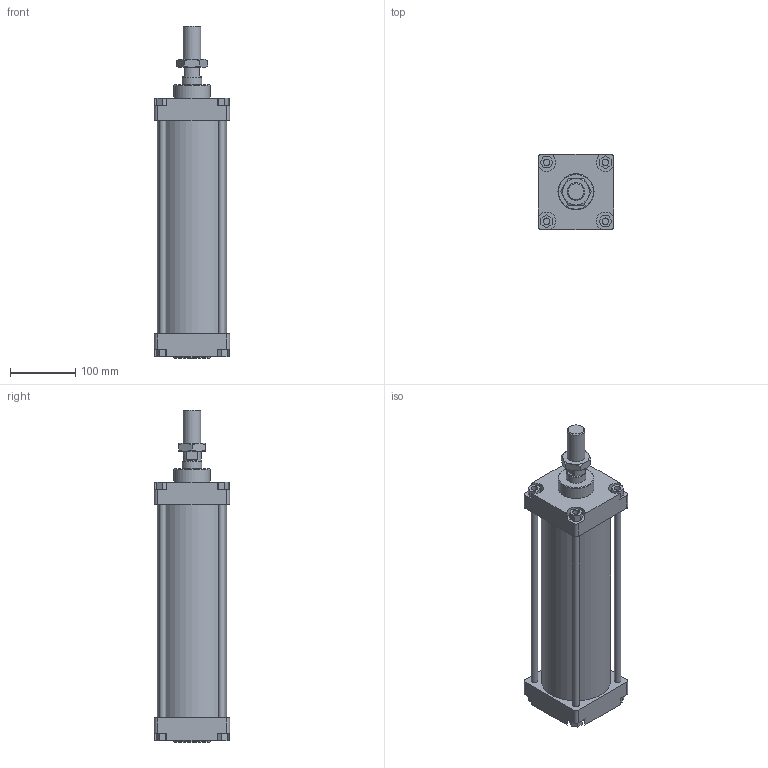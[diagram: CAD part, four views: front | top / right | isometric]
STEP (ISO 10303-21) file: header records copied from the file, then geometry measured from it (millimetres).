
FILE_DESCRIPTION(/* description */ (''),/* implementation_level */ '2;1');
FILE_NAME(/* name */ 'I:\Area Tecnica\Disegni\VARIE-3D\Componenti\CSP\Ø100\130#_100_####_###\1303_100_0250_01A.stp',/* time_stamp */ '2016-11-24T14:04:42+01:00',/* author */ ('Maniean1'),/* organization */ ('Pneumax S.p.A.'),/* preprocessor_version */ 'ST-DEVELOPER v15.2',/* originating_system */ 'Autodesk Inventor 2014',/* authorisation */ '');
FILE_SCHEMA (('AUTOMOTIVE_DESIGN { 1 0 10303 214 3 1 1 }'));
Length unit declared in the file: millimetre
Products named in the file (6): C_130#_100_0250; Testata anteriore_100; Testata posteriore_100; S_1303_100_0250_01A; 1300_100_18F; 1303_100_0250_01A
Bounding box: 115 x 115 x 507 mm (x, y, z)
Volume: 2132803.7 mm3; surface area: 445674.7 mm2
Topology: 9 solids, 9 shells, 162 faces, 380 edges, 249 vertices
Faces by surface type: plane 105, cylinder 42, cone 15
Full cylindrical faces by diameter (mm): 10 x12, 19 x2, 21.8 x1, 24.835 x1, 27 x1, 28 x1, 30 x3, 55 x2, 100 x2, 106 x1
Entity records: 4530 total; most frequent: CARTESIAN_POINT 785, DIRECTION 764, ORIENTED_EDGE 672, EDGE_CURVE 336, AXIS2_PLACEMENT_3D 271, VERTEX_POINT 244, EDGE_LOOP 236, LINE 222
